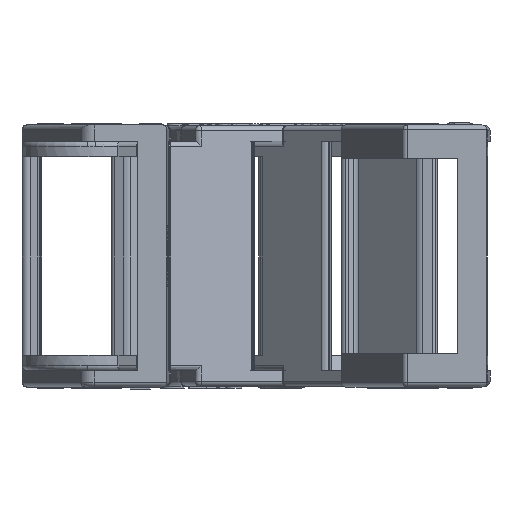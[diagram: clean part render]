
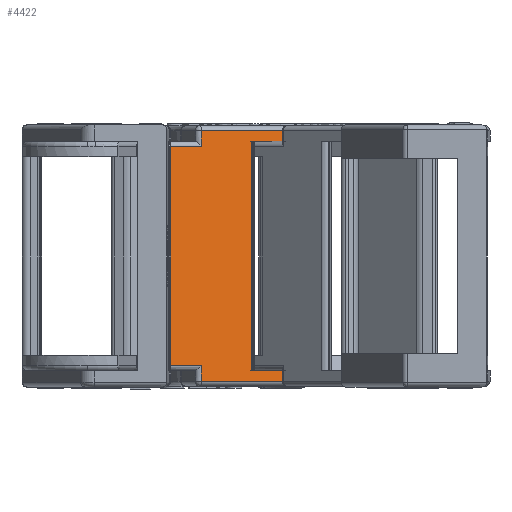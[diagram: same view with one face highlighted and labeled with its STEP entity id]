
A CAD part, left-side view. The second image highlights one B-rep face of the part: STEP entity #4422.
In plain terms, the highlighted planar face has unit normal (-0.924, -0.383, 0) as drawn and (0.002, -1, 0) by its records, which use the part's own axes.
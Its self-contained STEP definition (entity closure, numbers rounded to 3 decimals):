
#67 = DIRECTION ( 'NONE',  ( 0., 0., 1. ) ) ;
#295 = LINE ( 'NONE', #22210, #11131 ) ;
#1959 = VECTOR ( 'NONE', #5866, 1000. ) ;
#1998 = ORIENTED_EDGE ( 'NONE', *, *, #5072, .T. ) ;
#2471 = CARTESIAN_POINT ( 'NONE',  ( 21.074, -7.5, 0. ) ) ;
#2533 = VERTEX_POINT ( 'NONE', #28360 ) ;
#2683 = EDGE_CURVE ( 'NONE', #29732, #17504, #23563, .T. ) ;
#2747 = LINE ( 'NONE', #27901, #1959 ) ;
#2881 = ORIENTED_EDGE ( 'NONE', *, *, #24182, .T. ) ;
#2947 = CARTESIAN_POINT ( 'NONE',  ( 21.074, -7.5, 1.1 ) ) ;
#3760 = VERTEX_POINT ( 'NONE', #17661 ) ;
#3810 = CARTESIAN_POINT ( 'NONE',  ( 8.454, -7.529, 1.6 ) ) ;
#3814 = ORIENTED_EDGE ( 'NONE', *, *, #7228, .T. ) ;
#4170 = EDGE_CURVE ( 'NONE', #17504, #26649, #5162, .T. ) ;
#4422 = ADVANCED_FACE ( 'NONE', ( #6319 ), #7378, .F. ) ;
#4821 = VECTOR ( 'NONE', #8408, 1000. ) ;
#5001 = DIRECTION ( 'NONE',  ( 0., 0., -1. ) ) ;
#5072 = EDGE_CURVE ( 'NONE', #15547, #9194, #8588, .T. ) ;
#5162 = LINE ( 'NONE', #3810, #16715 ) ;
#5753 = DIRECTION ( 'NONE',  ( -1., -0.002, 0. ) ) ;
#5794 = EDGE_CURVE ( 'NONE', #29186, #29732, #2747, .T. ) ;
#5866 = DIRECTION ( 'NONE',  ( 0., 0., -1. ) ) ;
#6319 = FACE_OUTER_BOUND ( 'NONE', #10154, .T. ) ;
#6347 = LINE ( 'NONE', #15220, #25175 ) ;
#6609 = DIRECTION ( 'NONE',  ( 0., 0., 1. ) ) ;
#7228 = EDGE_CURVE ( 'NONE', #31892, #29186, #30399, .T. ) ;
#7378 = PLANE ( 'NONE',  #11887 ) ;
#7408 = CARTESIAN_POINT ( 'NONE',  ( -1.451, -7.551, -23.1 ) ) ;
#7694 = LINE ( 'NONE', #14685, #11144 ) ;
#8348 = VERTEX_POINT ( 'NONE', #25696 ) ;
#8408 = DIRECTION ( 'NONE',  ( -1., -0.002, 0. ) ) ;
#8588 = LINE ( 'NONE', #21326, #20886 ) ;
#8791 = DIRECTION ( 'NONE',  ( 0., 0., -1. ) ) ;
#8898 = VECTOR ( 'NONE', #67, 1000. ) ;
#9194 = VERTEX_POINT ( 'NONE', #18149 ) ;
#9334 = CARTESIAN_POINT ( 'NONE',  ( 21.074, -7.5, -23.1 ) ) ;
#9450 = LINE ( 'NONE', #29280, #20964 ) ;
#9873 = DIRECTION ( 'NONE',  ( -0.002, 1., 0. ) ) ;
#10154 = EDGE_LOOP ( 'NONE', ( #21904, #2881, #19082, #16326, #25232, #3814, #14075, #14007, #12338, #21648, #19892, #13188, #1998, #12288, #30967, #21770 ) ) ;
#10486 = VERTEX_POINT ( 'NONE', #24696 ) ;
#10495 = VECTOR ( 'NONE', #11903, 1000. ) ;
#11017 = DIRECTION ( 'NONE',  ( -1., -0.002, 0. ) ) ;
#11131 = VECTOR ( 'NONE', #5001, 1000. ) ;
#11144 = VECTOR ( 'NONE', #17174, 1000. ) ;
#11887 = AXIS2_PLACEMENT_3D ( 'NONE', #24562, #9873, #27034 ) ;
#11903 = DIRECTION ( 'NONE',  ( 1., 0.002, 0. ) ) ;
#12183 = CARTESIAN_POINT ( 'NONE',  ( 21.074, -7.5, -23.6 ) ) ;
#12288 = ORIENTED_EDGE ( 'NONE', *, *, #22916, .T. ) ;
#12338 = ORIENTED_EDGE ( 'NONE', *, *, #4170, .T. ) ;
#12538 = CARTESIAN_POINT ( 'NONE',  ( 5.055, -7.537, -1.6 ) ) ;
#13037 = VECTOR ( 'NONE', #5753, 1000. ) ;
#13188 = ORIENTED_EDGE ( 'NONE', *, *, #21975, .F. ) ;
#13337 = LINE ( 'NONE', #2471, #14897 ) ;
#13549 = EDGE_CURVE ( 'NONE', #31892, #20069, #21961, .T. ) ;
#13807 = LINE ( 'NONE', #22944, #13037 ) ;
#14007 = ORIENTED_EDGE ( 'NONE', *, *, #2683, .T. ) ;
#14024 = VERTEX_POINT ( 'NONE', #15448 ) ;
#14075 = ORIENTED_EDGE ( 'NONE', *, *, #5794, .T. ) ;
#14582 = VERTEX_POINT ( 'NONE', #30637 ) ;
#14685 = CARTESIAN_POINT ( 'NONE',  ( -1.451, -7.551, -1.6 ) ) ;
#14897 = VECTOR ( 'NONE', #19695, 1000. ) ;
#15051 = VECTOR ( 'NONE', #11017, 1000. ) ;
#15184 = VECTOR ( 'NONE', #17292, 1000. ) ;
#15220 = CARTESIAN_POINT ( 'NONE',  ( -1.451, -7.551, -1.6 ) ) ;
#15448 = CARTESIAN_POINT ( 'NONE',  ( -1.451, -7.551, -1.6 ) ) ;
#15547 = VERTEX_POINT ( 'NONE', #21981 ) ;
#15644 = EDGE_CURVE ( 'NONE', #26752, #2533, #295, .T. ) ;
#15645 = DIRECTION ( 'NONE',  ( 0., 0., -1. ) ) ;
#15685 = VECTOR ( 'NONE', #26897, 1000. ) ;
#15720 = CARTESIAN_POINT ( 'NONE',  ( 21.074, -7.5, -0.5 ) ) ;
#15864 = EDGE_CURVE ( 'NONE', #26752, #14582, #13807, .T. ) ;
#16031 = VECTOR ( 'NONE', #15645, 1000. ) ;
#16326 = ORIENTED_EDGE ( 'NONE', *, *, #26032, .F. ) ;
#16715 = VECTOR ( 'NONE', #8791, 1000. ) ;
#17066 = DIRECTION ( 'NONE',  ( 1., 0.002, 0. ) ) ;
#17174 = DIRECTION ( 'NONE',  ( 0., 0., 1. ) ) ;
#17292 = DIRECTION ( 'NONE',  ( 0., 0., 1. ) ) ;
#17504 = VERTEX_POINT ( 'NONE', #22181 ) ;
#17661 = CARTESIAN_POINT ( 'NONE',  ( -1.451, -7.551, -0.5 ) ) ;
#18149 = CARTESIAN_POINT ( 'NONE',  ( 14.015, -7.516, 0. ) ) ;
#18924 = CARTESIAN_POINT ( 'NONE',  ( -1.451, -7.551, -22. ) ) ;
#19082 = ORIENTED_EDGE ( 'NONE', *, *, #19928, .F. ) ;
#19695 = DIRECTION ( 'NONE',  ( 1., 0.002, 0. ) ) ;
#19892 = ORIENTED_EDGE ( 'NONE', *, *, #26695, .T. ) ;
#19928 = EDGE_CURVE ( 'NONE', #14024, #3760, #7694, .T. ) ;
#20069 = VERTEX_POINT ( 'NONE', #12538 ) ;
#20760 = CARTESIAN_POINT ( 'NONE',  ( -1.451, -7.551, -22. ) ) ;
#20886 = VECTOR ( 'NONE', #6609, 1000. ) ;
#20964 = VECTOR ( 'NONE', #17066, 1000. ) ;
#21326 = CARTESIAN_POINT ( 'NONE',  ( 14.015, -7.516, -11.8 ) ) ;
#21648 = ORIENTED_EDGE ( 'NONE', *, *, #31375, .T. ) ;
#21700 = CARTESIAN_POINT ( 'NONE',  ( 21.074, -7.5, -24.7 ) ) ;
#21770 = ORIENTED_EDGE ( 'NONE', *, *, #15864, .T. ) ;
#21904 = ORIENTED_EDGE ( 'NONE', *, *, #30523, .T. ) ;
#21961 = LINE ( 'NONE', #29555, #8898 ) ;
#21975 = EDGE_CURVE ( 'NONE', #15547, #10486, #29510, .T. ) ;
#21981 = CARTESIAN_POINT ( 'NONE',  ( 14.015, -7.516, -23.6 ) ) ;
#22181 = CARTESIAN_POINT ( 'NONE',  ( 8.454, -7.529, -23.1 ) ) ;
#22210 = CARTESIAN_POINT ( 'NONE',  ( 21.074, -7.5, 1.6 ) ) ;
#22916 = EDGE_CURVE ( 'NONE', #9194, #2533, #13337, .T. ) ;
#22944 = CARTESIAN_POINT ( 'NONE',  ( 7.952, -7.53, 1.1 ) ) ;
#23563 = LINE ( 'NONE', #9334, #10495 ) ;
#24182 = EDGE_CURVE ( 'NONE', #8348, #3760, #28642, .T. ) ;
#24256 = CARTESIAN_POINT ( 'NONE',  ( 8.454, -7.529, -24.7 ) ) ;
#24562 = CARTESIAN_POINT ( 'NONE',  ( 21.074, -7.5, 1.6 ) ) ;
#24696 = CARTESIAN_POINT ( 'NONE',  ( 21.074, -7.5, -23.6 ) ) ;
#25175 = VECTOR ( 'NONE', #29903, 1000. ) ;
#25232 = ORIENTED_EDGE ( 'NONE', *, *, #13549, .F. ) ;
#25398 = CARTESIAN_POINT ( 'NONE',  ( 8.454, -7.529, 1.6 ) ) ;
#25696 = CARTESIAN_POINT ( 'NONE',  ( 8.454, -7.529, -0.5 ) ) ;
#26032 = EDGE_CURVE ( 'NONE', #20069, #14024, #6347, .T. ) ;
#26649 = VERTEX_POINT ( 'NONE', #24256 ) ;
#26695 = EDGE_CURVE ( 'NONE', #27363, #10486, #28225, .T. ) ;
#26752 = VERTEX_POINT ( 'NONE', #2947 ) ;
#26897 = DIRECTION ( 'NONE',  ( 1., 0.002, 0. ) ) ;
#27034 = DIRECTION ( 'NONE',  ( -1., -0.002, 0. ) ) ;
#27363 = VERTEX_POINT ( 'NONE', #21700 ) ;
#27901 = CARTESIAN_POINT ( 'NONE',  ( -1.451, -7.551, -22. ) ) ;
#28225 = LINE ( 'NONE', #29523, #15184 ) ;
#28360 = CARTESIAN_POINT ( 'NONE',  ( 21.074, -7.5, 0. ) ) ;
#28642 = LINE ( 'NONE', #15720, #4821 ) ;
#28920 = CARTESIAN_POINT ( 'NONE',  ( 5.055, -7.537, -22. ) ) ;
#29186 = VERTEX_POINT ( 'NONE', #18924 ) ;
#29280 = CARTESIAN_POINT ( 'NONE',  ( 21.074, -7.5, -24.7 ) ) ;
#29510 = LINE ( 'NONE', #12183, #15685 ) ;
#29523 = CARTESIAN_POINT ( 'NONE',  ( 21.074, -7.5, -25.2 ) ) ;
#29555 = CARTESIAN_POINT ( 'NONE',  ( 5.055, -7.537, -11.8 ) ) ;
#29732 = VERTEX_POINT ( 'NONE', #7408 ) ;
#29844 = LINE ( 'NONE', #25398, #16031 ) ;
#29903 = DIRECTION ( 'NONE',  ( -1., -0.002, 0. ) ) ;
#30399 = LINE ( 'NONE', #20760, #15051 ) ;
#30523 = EDGE_CURVE ( 'NONE', #14582, #8348, #29844, .T. ) ;
#30637 = CARTESIAN_POINT ( 'NONE',  ( 8.454, -7.529, 1.1 ) ) ;
#30967 = ORIENTED_EDGE ( 'NONE', *, *, #15644, .F. ) ;
#31375 = EDGE_CURVE ( 'NONE', #26649, #27363, #9450, .T. ) ;
#31892 = VERTEX_POINT ( 'NONE', #28920 ) ;
